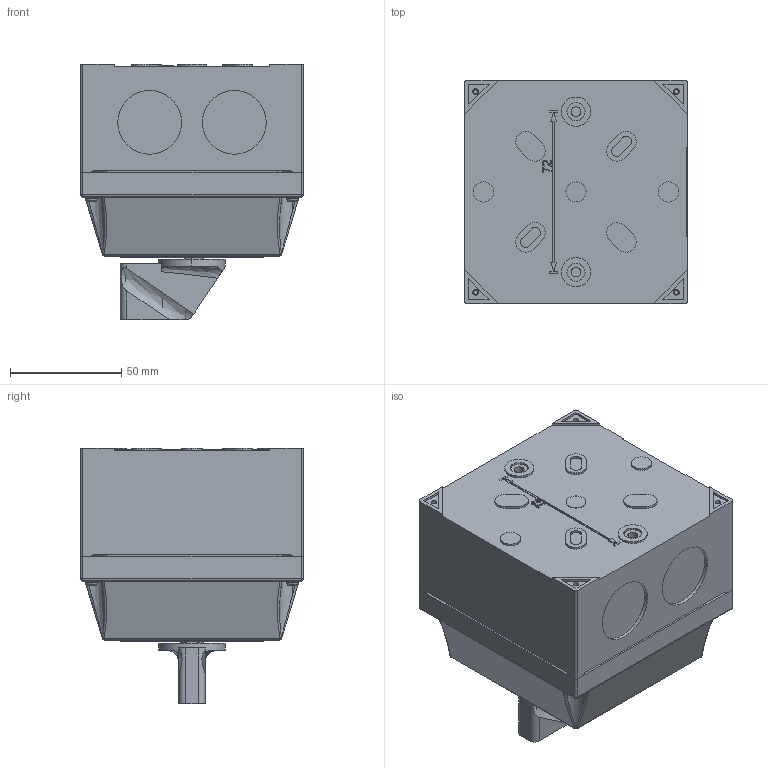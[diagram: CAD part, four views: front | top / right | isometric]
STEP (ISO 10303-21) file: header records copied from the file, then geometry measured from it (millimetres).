
FILE_DESCRIPTION (( 'STEP AP214' ), '1' );
FILE_NAME ('Ïåðåêëþ÷àòåëü 4G16,25-XXXX-PK-R112,R114,S24 2ê.STEP', '2022-12-21T10:40:51', ( '' ), ( '' ), 'SwSTEP 2.0', 'SolidWorks 2018', '' );
FILE_SCHEMA (( 'AUTOMOTIVE_DESIGN' ));
Length unit declared in the file: millimetre
Products named in the file (1): Ïåðåêëþ÷àòåëü 4G16,25-XXXX-PK-R112,R114,S24 2ê
Bounding box: 100 x 100 x 114.5 mm (x, y, z)
Volume: 152840.5 mm3; surface area: 130666.6 mm2
Topology: 10 solids, 10 shells, 1134 faces, 3036 edges, 1983 vertices
Faces by surface type: plane 555, cylinder 449, torus 57, bspline 41, cone 20, sphere 12
Entity records: 91203 total; most frequent: CARTESIAN_POINT 51129, ORIENTED_EDGE 6050, DIRECTION 5430, EDGE_CURVE 3025, VERTEX_POINT 1983, AXIS2_PLACEMENT_3D 1897, VECTOR 1636, LINE 1636
